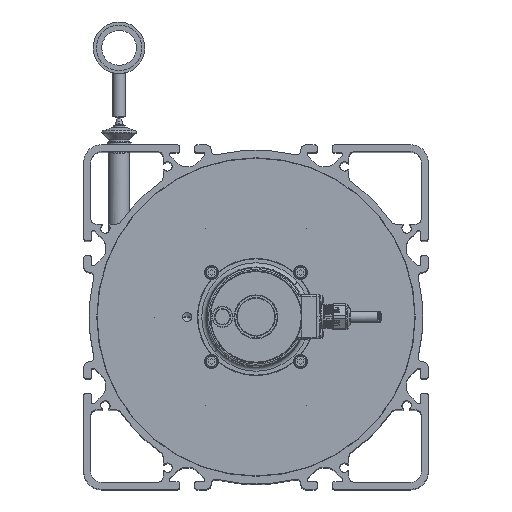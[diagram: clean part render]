
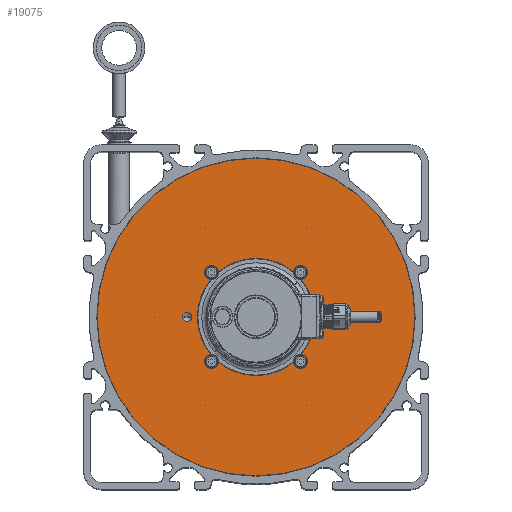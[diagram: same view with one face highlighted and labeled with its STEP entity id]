
A CAD part, top view. The second image highlights one B-rep face of the part: STEP entity #19075.
In plain terms, the highlighted planar face has unit normal (0, 0, 1) as drawn and (1, 0, 0) by its records, which use the part's own axes.
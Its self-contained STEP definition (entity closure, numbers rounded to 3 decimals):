
#17604=CARTESIAN_POINT('',(8.,0.,0.));
#17605=DIRECTION('',(-1.,0.,0.));
#17606=DIRECTION('',(0.,1.,0.));
#17607=AXIS2_PLACEMENT_3D('',#17604,#17605,#17606);
#17612=CARTESIAN_POINT('',(8.,0.,0.));
#17613=DIRECTION('',(1.,0.,0.));
#17614=DIRECTION('',(0.,1.,0.));
#17615=AXIS2_PLACEMENT_3D('',#17612,#17613,#17614);
#17620=CARTESIAN_POINT('',(8.,-25.809,-25.809));
#17621=DIRECTION('',(1.,0.,0.));
#17622=DIRECTION('',(0.,-1.,0.));
#17623=AXIS2_PLACEMENT_3D('',#17620,#17621,#17622);
#17628=CARTESIAN_POINT('',(8.,-25.809,-25.809));
#17629=DIRECTION('',(1.,0.,0.));
#17630=DIRECTION('',(0.,1.,0.));
#17631=AXIS2_PLACEMENT_3D('',#17628,#17629,#17630);
#17636=CARTESIAN_POINT('',(8.,-25.809,25.809));
#17637=DIRECTION('',(1.,0.,0.));
#17638=DIRECTION('',(0.,0.,1.));
#17639=AXIS2_PLACEMENT_3D('',#17636,#17637,#17638);
#17644=CARTESIAN_POINT('',(8.,-25.809,25.809));
#17645=DIRECTION('',(1.,0.,0.));
#17646=DIRECTION('',(0.,0.,-1.));
#17647=AXIS2_PLACEMENT_3D('',#17644,#17645,#17646);
#17652=CARTESIAN_POINT('',(8.,25.809,25.809));
#17653=DIRECTION('',(1.,0.,0.));
#17654=DIRECTION('',(0.,1.,0.));
#17655=AXIS2_PLACEMENT_3D('',#17652,#17653,#17654);
#17660=CARTESIAN_POINT('',(8.,25.809,25.809));
#17661=DIRECTION('',(1.,0.,0.));
#17662=DIRECTION('',(0.,-1.,0.));
#17663=AXIS2_PLACEMENT_3D('',#17660,#17661,#17662);
#17668=CARTESIAN_POINT('',(8.,25.809,-25.809));
#17669=DIRECTION('',(1.,0.,0.));
#17670=DIRECTION('',(0.,0.,-1.));
#17671=AXIS2_PLACEMENT_3D('',#17668,#17669,#17670);
#17676=CARTESIAN_POINT('',(8.,25.809,-25.809));
#17677=DIRECTION('',(1.,0.,0.));
#17678=DIRECTION('',(0.,0.,1.));
#17679=AXIS2_PLACEMENT_3D('',#17676,#17677,#17678);
#17684=CARTESIAN_POINT('',(8.,40.,0.));
#17685=DIRECTION('',(1.,0.,0.));
#17686=DIRECTION('',(0.,-1.,0.));
#17687=AXIS2_PLACEMENT_3D('',#17684,#17685,#17686);
#17692=CARTESIAN_POINT('',(8.,40.,0.));
#17693=DIRECTION('',(1.,0.,0.));
#17694=DIRECTION('',(0.,1.,0.));
#17695=AXIS2_PLACEMENT_3D('',#17692,#17693,#17694);
#17700=CARTESIAN_POINT('',(8.,-40.,0.));
#17701=DIRECTION('',(1.,0.,0.));
#17702=DIRECTION('',(0.,1.,0.));
#17703=AXIS2_PLACEMENT_3D('',#17700,#17701,#17702);
#17708=CARTESIAN_POINT('',(8.,-40.,0.));
#17709=DIRECTION('',(1.,0.,0.));
#17710=DIRECTION('',(0.,-1.,0.));
#17711=AXIS2_PLACEMENT_3D('',#17708,#17709,#17710);
#17716=CARTESIAN_POINT('',(8.,0.,0.));
#17717=DIRECTION('',(-1.,0.,0.));
#17718=DIRECTION('',(0.,1.,0.));
#17719=AXIS2_PLACEMENT_3D('',#17716,#17717,#17718);
#17724=CARTESIAN_POINT('',(8.,0.,0.));
#17725=DIRECTION('',(-1.,0.,0.));
#17726=DIRECTION('',(0.,-1.,0.));
#17727=AXIS2_PLACEMENT_3D('',#17724,#17725,#17726);
#18670=CARTESIAN_POINT('',(8.,34.02,0.));
#18671=CARTESIAN_POINT('',(8.,-34.02,0.));
#18672=VERTEX_POINT('',#18670);
#18673=VERTEX_POINT('',#18671);
#18720=CARTESIAN_POINT('',(8.,37.35,0.));
#18721=CARTESIAN_POINT('',(8.,42.65,0.));
#18722=VERTEX_POINT('',#18720);
#18723=VERTEX_POINT('',#18721);
#18730=CARTESIAN_POINT('',(8.,-37.35,0.));
#18731=CARTESIAN_POINT('',(8.,-42.65,0.));
#18732=VERTEX_POINT('',#18730);
#18733=VERTEX_POINT('',#18731);
#18794=CARTESIAN_POINT('',(8.,-28.159,-25.809));
#18795=CARTESIAN_POINT('',(8.,-23.459,-25.809));
#18796=VERTEX_POINT('',#18794);
#18797=VERTEX_POINT('',#18795);
#18798=CARTESIAN_POINT('',(8.,-25.809,28.159));
#18799=CARTESIAN_POINT('',(8.,-25.809,23.459));
#18800=VERTEX_POINT('',#18798);
#18801=VERTEX_POINT('',#18799);
#18802=CARTESIAN_POINT('',(8.,28.159,25.809));
#18803=CARTESIAN_POINT('',(8.,23.459,25.809));
#18804=VERTEX_POINT('',#18802);
#18805=VERTEX_POINT('',#18803);
#18806=CARTESIAN_POINT('',(8.,25.809,-28.159));
#18807=CARTESIAN_POINT('',(8.,25.809,-23.459));
#18808=VERTEX_POINT('',#18806);
#18809=VERTEX_POINT('',#18807);
#18814=CARTESIAN_POINT('',(8.,92.3,0.));
#18815=CARTESIAN_POINT('',(8.,-92.3,0.));
#18816=VERTEX_POINT('',#18814);
#18817=VERTEX_POINT('',#18815);
#19024=CARTESIAN_POINT('',(8.,0.,0.));
#19025=DIRECTION('',(1.,0.,0.));
#19026=DIRECTION('',(0.,-1.,0.));
#19027=AXIS2_PLACEMENT_3D('',#19024,#19025,#19026);
#19028=PLANE('',#19027);
#19030=ORIENTED_EDGE('',*,*,#19029,.T.);
#19032=ORIENTED_EDGE('',*,*,#19031,.T.);
#19033=EDGE_LOOP('',(#19030,#19032));
#19034=FACE_OUTER_BOUND('',#19033,.F.);
#19036=ORIENTED_EDGE('',*,*,#19035,.T.);
#19038=ORIENTED_EDGE('',*,*,#19037,.T.);
#19039=EDGE_LOOP('',(#19036,#19038));
#19040=FACE_BOUND('',#19039,.F.);
#19042=ORIENTED_EDGE('',*,*,#19041,.T.);
#19044=ORIENTED_EDGE('',*,*,#19043,.T.);
#19045=EDGE_LOOP('',(#19042,#19044));
#19046=FACE_BOUND('',#19045,.F.);
#19048=ORIENTED_EDGE('',*,*,#19047,.T.);
#19050=ORIENTED_EDGE('',*,*,#19049,.T.);
#19051=EDGE_LOOP('',(#19048,#19050));
#19052=FACE_BOUND('',#19051,.F.);
#19054=ORIENTED_EDGE('',*,*,#19053,.T.);
#19056=ORIENTED_EDGE('',*,*,#19055,.T.);
#19057=EDGE_LOOP('',(#19054,#19056));
#19058=FACE_BOUND('',#19057,.F.);
#19060=ORIENTED_EDGE('',*,*,#19059,.T.);
#19062=ORIENTED_EDGE('',*,*,#19061,.T.);
#19063=EDGE_LOOP('',(#19060,#19062));
#19064=FACE_BOUND('',#19063,.F.);
#19066=ORIENTED_EDGE('',*,*,#19065,.T.);
#19068=ORIENTED_EDGE('',*,*,#19067,.T.);
#19069=EDGE_LOOP('',(#19066,#19068));
#19070=FACE_BOUND('',#19069,.F.);
#19071=ORIENTED_EDGE('',*,*,#18992,.F.);
#19072=ORIENTED_EDGE('',*,*,#18970,.T.);
#19073=EDGE_LOOP('',(#19071,#19072));
#19074=FACE_BOUND('',#19073,.F.);
#17608=CIRCLE('',#17607,34.02);
#17616=CIRCLE('',#17615,34.02);
#17624=CIRCLE('',#17623,2.35);
#17632=CIRCLE('',#17631,2.35);
#17640=CIRCLE('',#17639,2.35);
#17648=CIRCLE('',#17647,2.35);
#17656=CIRCLE('',#17655,2.35);
#17664=CIRCLE('',#17663,2.35);
#17672=CIRCLE('',#17671,2.35);
#17680=CIRCLE('',#17679,2.35);
#17688=CIRCLE('',#17687,2.65);
#17696=CIRCLE('',#17695,2.65);
#17704=CIRCLE('',#17703,2.65);
#17712=CIRCLE('',#17711,2.65);
#17720=CIRCLE('',#17719,92.3);
#17728=CIRCLE('',#17727,92.3);
#18970=EDGE_CURVE('',#18672,#18673,#17616,.T.);
#18992=EDGE_CURVE('',#18672,#18673,#17608,.T.);
#19029=EDGE_CURVE('',#18816,#18817,#17720,.T.);
#19031=EDGE_CURVE('',#18817,#18816,#17728,.T.);
#19035=EDGE_CURVE('',#18796,#18797,#17624,.T.);
#19037=EDGE_CURVE('',#18797,#18796,#17632,.T.);
#19041=EDGE_CURVE('',#18800,#18801,#17640,.T.);
#19043=EDGE_CURVE('',#18801,#18800,#17648,.T.);
#19047=EDGE_CURVE('',#18804,#18805,#17656,.T.);
#19049=EDGE_CURVE('',#18805,#18804,#17664,.T.);
#19053=EDGE_CURVE('',#18808,#18809,#17672,.T.);
#19055=EDGE_CURVE('',#18809,#18808,#17680,.T.);
#19059=EDGE_CURVE('',#18722,#18723,#17688,.T.);
#19061=EDGE_CURVE('',#18723,#18722,#17696,.T.);
#19065=EDGE_CURVE('',#18732,#18733,#17704,.T.);
#19067=EDGE_CURVE('',#18733,#18732,#17712,.T.);
#19075=ADVANCED_FACE('',(#19034,#19040,#19046,#19052,#19058,#19064,#19070,
#19074),#19028,.T.);
